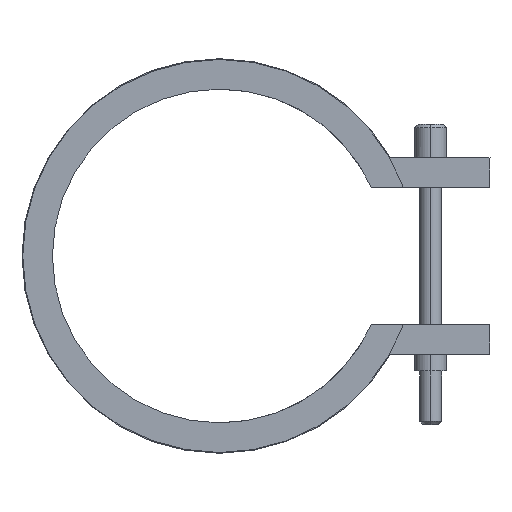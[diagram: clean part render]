
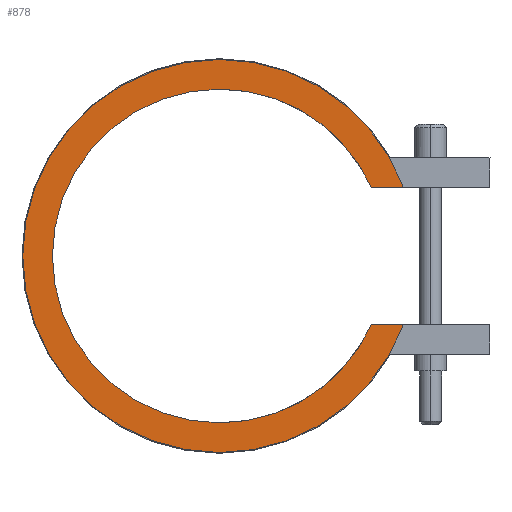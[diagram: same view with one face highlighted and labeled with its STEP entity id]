
A CAD part, left-side view. The second image highlights one B-rep face of the part: STEP entity #878.
In plain terms, the highlighted planar face has unit normal (-1, 0, 0).
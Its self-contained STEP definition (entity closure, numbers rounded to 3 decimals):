
#416=CARTESIAN_POINT('Vertex',(-25.,-20.511,-9.25)) ;
#419=CARTESIAN_POINT('Line Origine',(-25.,-22.672,-9.25)) ;
#423=CARTESIAN_POINT('Vertex',(-25.,-24.833,-9.25)) ;
#469=CARTESIAN_POINT('Vertex',(-25.,0.,-26.5)) ;
#472=CARTESIAN_POINT('Axis2P3D Location',(-25.,0.,0.)) ;
#493=CARTESIAN_POINT('Vertex',(-25.,0.,26.5)) ;
#496=CARTESIAN_POINT('Axis2P3D Location',(-25.,0.,0.)) ;
#508=CARTESIAN_POINT('Axis2P3D Location',(-25.,0.,0.)) ;
#512=CARTESIAN_POINT('Vertex',(-25.,-24.833,9.25)) ;
#532=CARTESIAN_POINT('Line Origine',(-25.,-22.672,9.25)) ;
#536=CARTESIAN_POINT('Vertex',(-25.,-20.511,9.25)) ;
#824=CARTESIAN_POINT('Axis2P3D Location',(-25.,0.,0.)) ;
#828=CARTESIAN_POINT('Vertex',(-25.,0.,-22.5)) ;
#851=CARTESIAN_POINT('Axis2P3D Location',(-25.,0.,0.)) ;
#856=CARTESIAN_POINT('Axis2P3D Location',(-25.,0.,0.)) ;
#860=CARTESIAN_POINT('Vertex',(-25.,0.,22.5)) ;
#863=CARTESIAN_POINT('Axis2P3D Location',(-25.,0.,0.)) ;
#420=DIRECTION('Vector Direction',(0.,1.,0.)) ;
#473=DIRECTION('Axis2P3D Direction',(1.,0.,-0.)) ;
#497=DIRECTION('Axis2P3D Direction',(1.,0.,-0.)) ;
#509=DIRECTION('Axis2P3D Direction',(1.,0.,-0.)) ;
#533=DIRECTION('Vector Direction',(0.,-1.,0.)) ;
#825=DIRECTION('Axis2P3D Direction',(1.,0.,-0.)) ;
#852=DIRECTION('Axis2P3D Direction',(1.,0.,0.)) ;
#853=DIRECTION('Axis2P3D XDirection',(0.,0.,-1.)) ;
#857=DIRECTION('Axis2P3D Direction',(1.,0.,0.)) ;
#864=DIRECTION('Axis2P3D Direction',(1.,0.,0.)) ;
#474=AXIS2_PLACEMENT_3D('Circle Axis2P3D',#472,#473,$) ;
#498=AXIS2_PLACEMENT_3D('Circle Axis2P3D',#496,#497,$) ;
#510=AXIS2_PLACEMENT_3D('Circle Axis2P3D',#508,#509,$) ;
#826=AXIS2_PLACEMENT_3D('Circle Axis2P3D',#824,#825,$) ;
#854=AXIS2_PLACEMENT_3D('Plane Axis2P3D',#851,#852,#853) ;
#858=AXIS2_PLACEMENT_3D('Circle Axis2P3D',#856,#857,$) ;
#865=AXIS2_PLACEMENT_3D('Circle Axis2P3D',#863,#864,$) ;
#869=ORIENTED_EDGE('',*,*,#425,.T.) ;
#870=ORIENTED_EDGE('',*,*,#830,.T.) ;
#871=ORIENTED_EDGE('',*,*,#862,.T.) ;
#872=ORIENTED_EDGE('',*,*,#867,.T.) ;
#873=ORIENTED_EDGE('',*,*,#538,.T.) ;
#874=ORIENTED_EDGE('',*,*,#514,.F.) ;
#875=ORIENTED_EDGE('',*,*,#500,.F.) ;
#876=ORIENTED_EDGE('',*,*,#476,.F.) ;
#421=VECTOR('Line Direction',#420,1.) ;
#534=VECTOR('Line Direction',#533,1.) ;
#878=ADVANCED_FACE('14045050',(#877),#855,.F.) ;
#475=CIRCLE('generated circle',#474,26.5) ;
#499=CIRCLE('generated circle',#498,26.5) ;
#511=CIRCLE('generated circle',#510,26.5) ;
#827=CIRCLE('generated circle',#826,22.5) ;
#859=CIRCLE('generated circle',#858,22.5) ;
#866=CIRCLE('generated circle',#865,22.5) ;
#425=EDGE_CURVE('',#424,#417,#422,.T.) ;
#476=EDGE_CURVE('',#424,#470,#475,.T.) ;
#500=EDGE_CURVE('',#470,#494,#499,.T.) ;
#514=EDGE_CURVE('',#494,#513,#511,.T.) ;
#538=EDGE_CURVE('',#537,#513,#535,.T.) ;
#830=EDGE_CURVE('',#417,#829,#827,.T.) ;
#862=EDGE_CURVE('',#829,#861,#859,.T.) ;
#867=EDGE_CURVE('',#861,#537,#866,.T.) ;
#868=EDGE_LOOP('',(#869,#870,#871,#872,#873,#874,#875,#876)) ;
#877=FACE_OUTER_BOUND('',#868,.T.) ;
#422=LINE('Line',#419,#421) ;
#535=LINE('Line',#532,#534) ;
#855=PLANE('Plane',#854) ;
#417=VERTEX_POINT('',#416) ;
#424=VERTEX_POINT('',#423) ;
#470=VERTEX_POINT('',#469) ;
#494=VERTEX_POINT('',#493) ;
#513=VERTEX_POINT('',#512) ;
#537=VERTEX_POINT('',#536) ;
#829=VERTEX_POINT('',#828) ;
#861=VERTEX_POINT('',#860) ;
